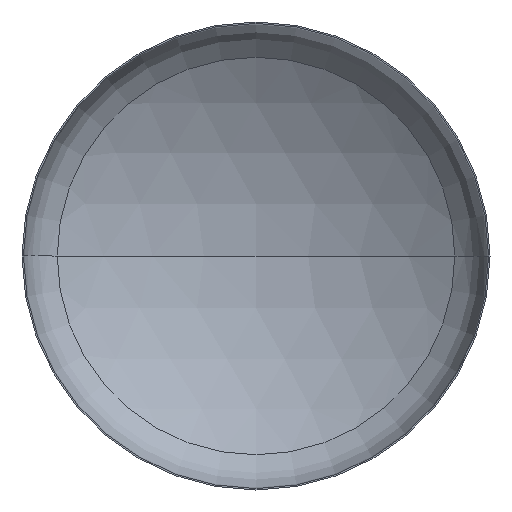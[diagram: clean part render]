
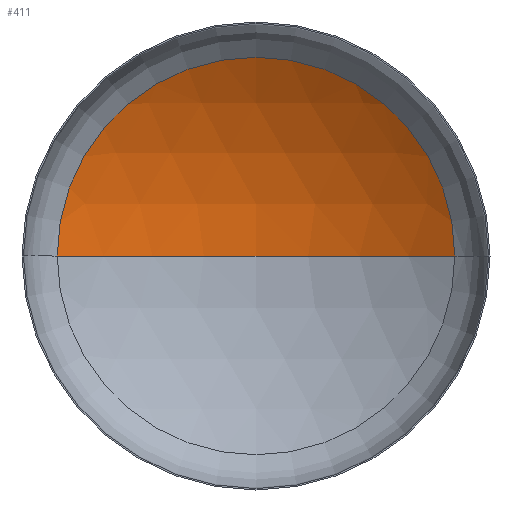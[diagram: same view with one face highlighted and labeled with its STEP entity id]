
A CAD part, front view. The second image highlights one B-rep face of the part: STEP entity #411.
In plain terms, the highlighted spherical face has radius 2080 mm.
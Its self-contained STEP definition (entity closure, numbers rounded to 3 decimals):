
#2 = AXIS2_PLACEMENT_3D ( 'NONE', #52, #269, #139 ) ;
#8 = EDGE_LOOP ( 'NONE', ( #121, #104, #114 ) ) ;
#16 = AXIS2_PLACEMENT_3D ( 'NONE', #177, #390, #126 ) ;
#24 = AXIS2_PLACEMENT_3D ( 'NONE', #175, #130, #295 ) ;
#32 = VERTEX_POINT ( 'NONE', #375 ) ;
#38 = VERTEX_POINT ( 'NONE', #288 ) ;
#52 = CARTESIAN_POINT ( 'NONE',  ( 0., -1398.635, 0. ) ) ;
#101 = VERTEX_POINT ( 'NONE', #342 ) ;
#104 = ORIENTED_EDGE ( 'NONE', *, *, #366, .T. ) ;
#114 = ORIENTED_EDGE ( 'NONE', *, *, #318, .T. ) ;
#121 = ORIENTED_EDGE ( 'NONE', *, *, #346, .F. ) ;
#126 = DIRECTION ( 'NONE',  ( 1., 0., 0. ) ) ;
#130 = DIRECTION ( 'NONE',  ( 0., -1., 0. ) ) ;
#138 = AXIS2_PLACEMENT_3D ( 'NONE', #379, #204, #299 ) ;
#139 = DIRECTION ( 'NONE',  ( -1., 0., 0. ) ) ;
#175 = CARTESIAN_POINT ( 'NONE',  ( 0., 363.961, 0. ) ) ;
#177 = CARTESIAN_POINT ( 'NONE',  ( 0., -1398.635, 0. ) ) ;
#204 = DIRECTION ( 'NONE',  ( 0., 0., -1. ) ) ;
#231 = CIRCLE ( 'NONE', #16, 2080. ) ;
#264 = SPHERICAL_SURFACE ( 'NONE', #138, 2080. ) ;
#269 = DIRECTION ( 'NONE',  ( 0., 0., -1. ) ) ;
#288 = CARTESIAN_POINT ( 'NONE',  ( 1104.381, 363.961, 0. ) ) ;
#290 = CIRCLE ( 'NONE', #24, 1104.381 ) ;
#295 = DIRECTION ( 'NONE',  ( 1., 0., 0. ) ) ;
#299 = DIRECTION ( 'NONE',  ( -1., 0., 0. ) ) ;
#318 = EDGE_CURVE ( 'NONE', #38, #32, #290, .T. ) ;
#342 = CARTESIAN_POINT ( 'NONE',  ( 0., 681.365, 0. ) ) ;
#346 = EDGE_CURVE ( 'NONE', #101, #32, #231, .T. ) ;
#366 = EDGE_CURVE ( 'NONE', #101, #38, #407, .T. ) ;
#375 = CARTESIAN_POINT ( 'NONE',  ( -1104.381, 363.961, 0. ) ) ;
#379 = CARTESIAN_POINT ( 'NONE',  ( 0., -1398.635, 0. ) ) ;
#390 = DIRECTION ( 'NONE',  ( 0., 0., 1. ) ) ;
#392 = FACE_OUTER_BOUND ( 'NONE', #8, .T. ) ;
#407 = CIRCLE ( 'NONE', #2, 2080. ) ;
#411 = ADVANCED_FACE ( 'NONE', ( #392 ), #264, .F. ) ;
